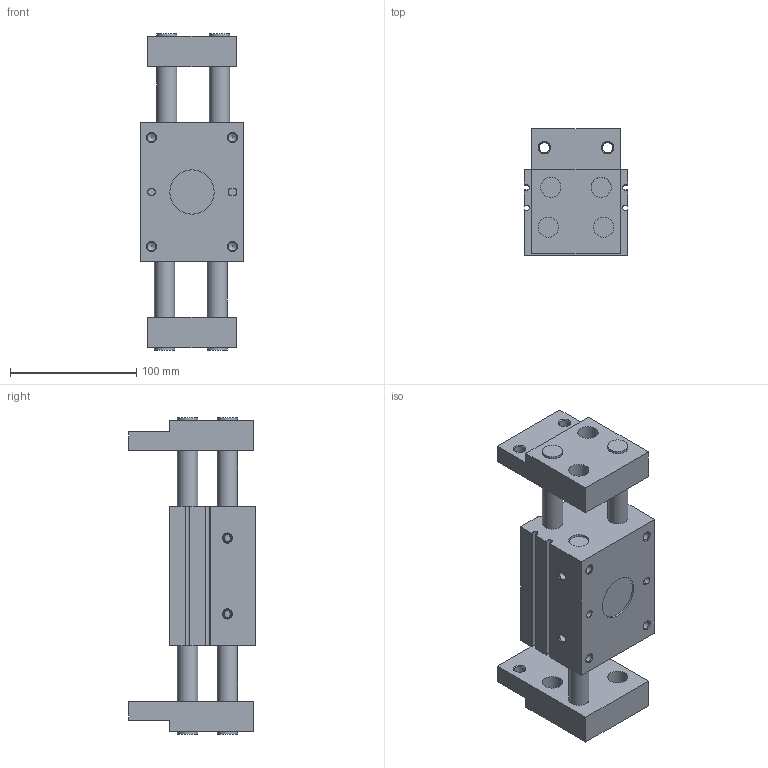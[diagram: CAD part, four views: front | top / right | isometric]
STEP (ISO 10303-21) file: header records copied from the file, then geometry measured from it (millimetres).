
FILE_DESCRIPTION(/* description */ ('','CAx-IF Rec.Pracs.---Representation and Presentation of Product Manufacturing Information (PMI)---3.8---2014-02-18'),/* implementation_level */ '2;1');
FILE_NAME(/* name */ 'C:\Users\JMolter\Desktop\Downloads\Mindman\GR04.532\GR04.532.stp',/* time_stamp */ '2018-11-23T15:20:29+01:00',/* author */ ('JMolter'),/* organization */ (''),/* preprocessor_version */ 'ST-DEVELOPER v16.13',/* originating_system */ 'Autodesk Inventor 2018',/* authorisation */ '');
FILE_SCHEMA (('AP242_MANAGED_MODEL_BASED_3D_ENGINEERING_MIM_LF { 1 0 10303 442 1 1 4 }'));
Length unit declared in the file: millimetre
Products named in the file (1): GR04.532
Bounding box: 82 x 100 x 250 mm (x, y, z)
Volume: 896517.2 mm3; surface area: 106177.8 mm2
Topology: 1 solids, 1 shells, 127 faces, 310 edges, 202 vertices
Faces by surface type: plane 53, cylinder 48, cone 26
Full cylindrical faces by diameter (mm): 6 x1, 6.647 x6, 8.376 x4, 16 x16, 35 x1
Entity records: 3742 total; most frequent: CARTESIAN_POINT 661, DIRECTION 640, ORIENTED_EDGE 480, AXIS2_PLACEMENT_3D 261, EDGE_CURVE 240, EDGE_LOOP 218, VERTEX_POINT 186, STYLED_ITEM 129
